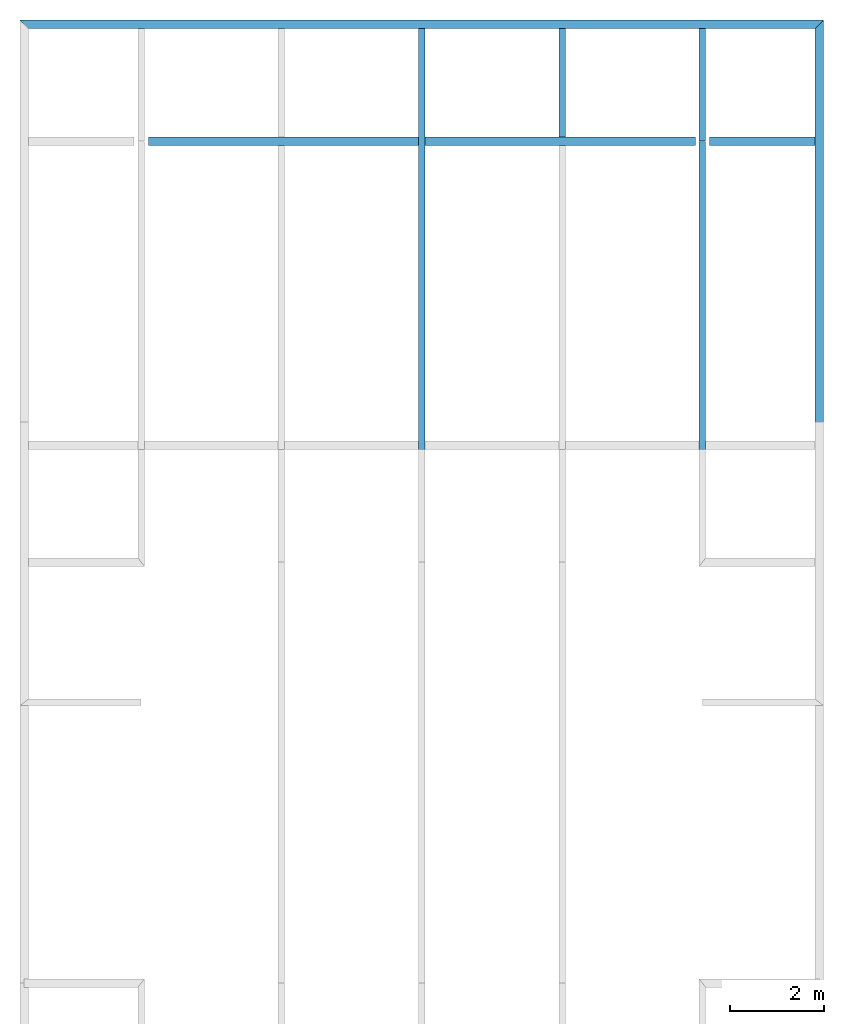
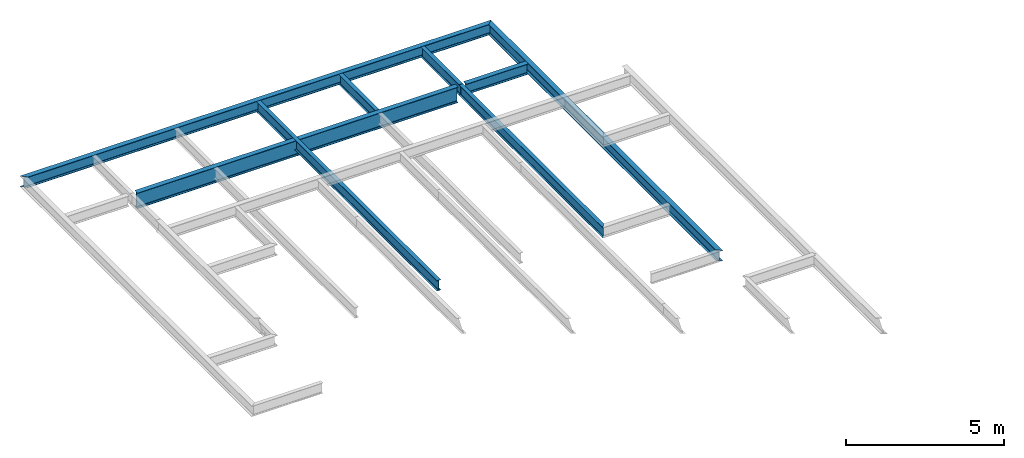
# One storey, part 7 of 7: 8 beams.
"""IFC2X3 building model written with IfcOpenShell, lengths in millimetres."""

from ifc_helpers import new_model, si_unit, origin, place, context, project, spatial, faceted_brep, material, element, save


model = new_model("IFC2X3")

# Units and contexts
context_of_model = context(None, 3, precision=1e-05, world=origin())
ifc_project = project(units=[si_unit("LENGTHUNIT", "METRE", prefix="MILLI")], contexts=[context_of_model])

# Building, storey
building = spatial("IfcBuilding", under=ifc_project, Name="Building", CompositionType="ELEMENT")
storey = spatial("IfcBuildingStorey", under=building, Name="ROF-FRM", CompositionType="ELEMENT")

# Beams
ifc_material_1 = material(Name="A992")
beam_1_placement = place(None, origin())
element("IfcBeam", 1, at=beam_1_placement, inside=storey, material=ifc_material_1, Name="B1125", context=context_of_model, shape_type="Brep", body=[
    faceted_brep([(14410.0, 36089.0, 27766.0), (14410.0, 35911.0, 27766.0), (12153.0, 35911.0, 27766.0), (12153.0, 36089.0, 27766.0), (14410.0, 35911.0, 27778.8), (12153.0, 35911.0, 27778.8), (14410.0, 35986.0, 27778.8), (12153.0, 35986.0, 27778.8), (14410.0, 35988.6, 27779.1), (12153.0, 35988.6, 27779.1), (14410.0, 35991.1, 27780.2), (12153.0, 35991.1, 27780.2), (14410.0, 35993.2, 27781.8), (12153.0, 35993.2, 27781.8), (14410.0, 35994.8, 27783.9), (12153.0, 35994.8, 27783.9), (14410.0, 35995.8, 27786.4), (12153.0, 35995.8, 27786.4), (14410.0, 35996.2, 27789.0), (12153.0, 35996.2, 27789.0), (14410.0, 35996.2, 28150.0), (12153.0, 35996.2, 28150.0), (14410.0, 35995.8, 28152.6), (12153.0, 35995.8, 28152.6), (14410.0, 35994.8, 28155.1), (12153.0, 35994.8, 28155.1), (14410.0, 35993.2, 28157.2), (12153.0, 35993.2, 28157.2), (14410.0, 35991.1, 28158.8), (12153.0, 35991.1, 28158.8), (14410.0, 35988.6, 28159.9), (12153.0, 35988.6, 28159.9), (14410.0, 35986.0, 28160.2), (12153.0, 35986.0, 28160.2), (14410.0, 35911.0, 28160.2), (12153.0, 35911.0, 28160.2), (14410.0, 35911.0, 28173.0), (12153.0, 35911.0, 28173.0), (14410.0, 36089.0, 28173.0), (12153.0, 36089.0, 28173.0), (14410.0, 36089.0, 28160.2), (12153.0, 36089.0, 28160.2), (14410.0, 36014.0, 28160.2), (12153.0, 36014.0, 28160.2), (14410.0, 36011.4, 28159.9), (12153.0, 36011.4, 28159.9), (14410.0, 36008.9, 28158.8), (12153.0, 36008.9, 28158.8), (14410.0, 36006.8, 28157.2), (12153.0, 36006.8, 28157.2), (14410.0, 36005.2, 28155.1), (12153.0, 36005.2, 28155.1), (14410.0, 36004.2, 28152.6), (12153.0, 36004.2, 28152.6), (14410.0, 36003.8, 28150.0), (12153.0, 36003.8, 28150.0), (14410.0, 36003.8, 27789.0), (12153.0, 36003.8, 27789.0), (14410.0, 36004.2, 27786.4), (12153.0, 36004.2, 27786.4), (14410.0, 36005.2, 27783.9), (12153.0, 36005.2, 27783.9), (14410.0, 36006.8, 27781.8), (12153.0, 36006.8, 27781.8), (14410.0, 36008.9, 27780.2), (12153.0, 36008.9, 27780.2), (14410.0, 36011.4, 27779.1), (12153.0, 36011.4, 27779.1), (14410.0, 36014.0, 27778.8), (12153.0, 36014.0, 27778.8), (14410.0, 36089.0, 27778.8), (12153.0, 36089.0, 27778.8)], [[[0, 1, 2, 3]], [[1, 4, 5, 2]], [[4, 6, 7, 5]], [[6, 8, 9, 7]], [[8, 10, 11, 9]], [[10, 12, 13, 11]], [[12, 14, 15, 13]], [[14, 16, 17, 15]], [[16, 18, 19, 17]], [[18, 20, 21, 19]], [[20, 22, 23, 21]], [[22, 24, 25, 23]], [[24, 26, 27, 25]], [[26, 28, 29, 27]], [[28, 30, 31, 29]], [[30, 32, 33, 31]], [[32, 34, 35, 33]], [[34, 36, 37, 35]], [[36, 38, 39, 37]], [[38, 40, 41, 39]], [[40, 42, 43, 41]], [[42, 44, 45, 43]], [[44, 46, 47, 45]], [[46, 48, 49, 47]], [[48, 50, 51, 49]], [[50, 52, 53, 51]], [[52, 54, 55, 53]], [[54, 56, 57, 55]], [[56, 58, 59, 57]], [[58, 60, 61, 59]], [[60, 62, 63, 61]], [[62, 64, 65, 63]], [[64, 66, 67, 65]], [[66, 68, 69, 67]], [[68, 70, 71, 69]], [[70, 0, 3, 71]], [[0, 70, 68, 66, 64, 62, 60, 58, 56, 54, 52, 50, 48, 46, 44, 42, 40, 38, 36, 34, 32, 30, 28, 26, 24, 22, 20, 18, 16, 14, 12, 10, 8, 6, 4, 1]], [[3, 2, 5, 7, 9, 11, 13, 15, 17, 19, 21, 23, 25, 27, 29, 31, 33, 35, 37, 39, 41, 43, 45, 47, 49, 51, 53, 55, 57, 59, 61, 63, 65, 67, 69, 71]]]),
])
ifc_material_2 = material(Name="A992")
beam_2_placement = place(None, origin())
element("IfcBeam", 2, at=beam_2_placement, inside=storey, material=ifc_material_2, Name="B1134", context=context_of_model, shape_type="Brep", body=[
    faceted_brep([(14590.0, 38590.0, 27760.0), (14410.0, 38410.0, 27760.0), (-2410.0, 38410.0, 27760.0), (-2590.0, 38590.0, 27760.0), (14410.0, 38410.0, 27776.0), (-2410.0, 38410.0, 27776.0), (14485.0, 38485.0, 27776.0), (-2484.95, 38485.0, 27776.0), (14486.5, 38486.5, 27776.1), (-2486.53, 38486.5, 27776.1), (14488.1, 38488.1, 27776.5), (-2488.09, 38488.1, 27776.5), (14489.6, 38489.6, 27777.1), (-2489.55, 38489.6, 27777.1), (14490.9, 38490.9, 27777.9), (-2490.91, 38490.9, 27777.9), (14492.2, 38492.2, 27779.0), (-2492.16, 38492.2, 27779.0), (14493.2, 38493.2, 27780.2), (-2493.17, 38493.2, 27780.2), (14494.0, 38494.0, 27781.5), (-2494.03, 38494.0, 27781.5), (14494.6, 38494.6, 27783.0), (-2494.63, 38494.6, 27783.0), (14495.0, 38495.0, 27784.6), (-2494.99, 38495.0, 27784.6), (14495.2, 38495.2, 27786.2), (-2495.15, 38495.2, 27786.2), (14495.2, 38495.2, 28146.8), (-2495.15, 38495.2, 28146.8), (14495.0, 38495.0, 28148.4), (-2494.99, 38495.0, 28148.4), (14494.6, 38494.6, 28150.0), (-2494.63, 38494.6, 28150.0), (14494.0, 38494.0, 28151.5), (-2494.03, 38494.0, 28151.5), (14493.2, 38493.2, 28152.8), (-2493.17, 38493.2, 28152.8), (14492.2, 38492.2, 28154.0), (-2492.16, 38492.2, 28154.0), (14490.9, 38490.9, 28155.1), (-2490.91, 38490.9, 28155.1), (14489.6, 38489.6, 28155.9), (-2489.55, 38489.6, 28155.9), (14488.1, 38488.1, 28156.5), (-2488.09, 38488.1, 28156.5), (14486.5, 38486.5, 28156.9), (-2486.53, 38486.5, 28156.9), (14485.0, 38485.0, 28157.0), (-2484.95, 38485.0, 28157.0), (14410.0, 38410.0, 28157.0), (-2410.0, 38410.0, 28157.0), (14410.0, 38410.0, 28173.0), (-2410.0, 38410.0, 28173.0), (14590.0, 38590.0, 28173.0), (-2590.0, 38590.0, 28173.0), (14590.0, 38590.0, 28157.0), (-2590.0, 38590.0, 28157.0), (14515.0, 38515.0, 28157.0), (-2515.05, 38515.0, 28157.0), (14513.5, 38513.5, 28156.9), (-2513.47, 38513.5, 28156.9), (14511.9, 38511.9, 28156.5), (-2511.91, 38511.9, 28156.5), (14510.4, 38510.4, 28155.9), (-2510.45, 38510.4, 28155.9), (14509.1, 38509.1, 28155.1), (-2509.09, 38509.1, 28155.1), (14507.8, 38507.8, 28154.0), (-2507.84, 38507.8, 28154.0), (14506.8, 38506.8, 28152.8), (-2506.83, 38506.8, 28152.8), (14506.0, 38506.0, 28151.5), (-2505.97, 38506.0, 28151.5), (14505.4, 38505.4, 28150.0), (-2505.37, 38505.4, 28150.0), (14505.0, 38505.0, 28148.4), (-2505.01, 38505.0, 28148.4), (14504.8, 38504.8, 28146.8), (-2504.85, 38504.8, 28146.8), (14504.8, 38504.8, 27786.2), (-2504.85, 38504.8, 27786.2), (14505.0, 38505.0, 27784.6), (-2505.01, 38505.0, 27784.6), (14505.4, 38505.4, 27783.0), (-2505.37, 38505.4, 27783.0), (14506.0, 38506.0, 27781.5), (-2505.97, 38506.0, 27781.5), (14506.8, 38506.8, 27780.2), (-2506.83, 38506.8, 27780.2), (14507.8, 38507.8, 27779.0), (-2507.84, 38507.8, 27779.0), (14509.1, 38509.1, 27777.9), (-2509.09, 38509.1, 27777.9), (14510.4, 38510.4, 27777.1), (-2510.45, 38510.4, 27777.1), (14511.9, 38511.9, 27776.5), (-2511.91, 38511.9, 27776.5), (14513.5, 38513.5, 27776.1), (-2513.47, 38513.5, 27776.1), (14515.0, 38515.0, 27776.0), (-2515.05, 38515.0, 27776.0), (14590.0, 38590.0, 27776.0), (-2590.0, 38590.0, 27776.0)], [[[0, 1, 2, 3]], [[1, 4, 5, 2]], [[4, 6, 7, 5]], [[6, 8, 9, 7]], [[8, 10, 11, 9]], [[10, 12, 13, 11]], [[12, 14, 15, 13]], [[14, 16, 17, 15]], [[16, 18, 19, 17]], [[18, 20, 21, 19]], [[20, 22, 23, 21]], [[22, 24, 25, 23]], [[24, 26, 27, 25]], [[26, 28, 29, 27]], [[28, 30, 31, 29]], [[30, 32, 33, 31]], [[32, 34, 35, 33]], [[34, 36, 37, 35]], [[36, 38, 39, 37]], [[38, 40, 41, 39]], [[40, 42, 43, 41]], [[42, 44, 45, 43]], [[44, 46, 47, 45]], [[46, 48, 49, 47]], [[48, 50, 51, 49]], [[50, 52, 53, 51]], [[52, 54, 55, 53]], [[54, 56, 57, 55]], [[56, 58, 59, 57]], [[58, 60, 61, 59]], [[60, 62, 63, 61]], [[62, 64, 65, 63]], [[64, 66, 67, 65]], [[66, 68, 69, 67]], [[68, 70, 71, 69]], [[70, 72, 73, 71]], [[72, 74, 75, 73]], [[74, 76, 77, 75]], [[76, 78, 79, 77]], [[78, 80, 81, 79]], [[80, 82, 83, 81]], [[82, 84, 85, 83]], [[84, 86, 87, 85]], [[86, 88, 89, 87]], [[88, 90, 91, 89]], [[90, 92, 93, 91]], [[92, 94, 95, 93]], [[94, 96, 97, 95]], [[96, 98, 99, 97]], [[98, 100, 101, 99]], [[100, 102, 103, 101]], [[102, 0, 3, 103]], [[0, 102, 100, 98, 96, 94, 92, 90, 88, 86, 84, 82, 80, 78, 76, 74, 72, 70, 68, 66, 64, 62, 60, 58, 56, 54, 52, 50, 48, 46, 44, 42, 40, 38, 36, 34, 32, 30, 28, 26, 24, 22, 20, 18, 16, 14, 12, 10, 8, 6, 4, 1]], [[3, 2, 5, 7, 9, 11, 13, 15, 17, 19, 21, 23, 25, 27, 29, 31, 33, 35, 37, 39, 41, 43, 45, 47, 49, 51, 53, 55, 57, 59, 61, 63, 65, 67, 69, 71, 73, 75, 77, 79, 81, 83, 85, 87, 89, 91, 93, 95, 97, 99, 101, 103]]]),
])
ifc_material_3 = material(Name="A992")
beam_3_placement = place(None, origin())
element("IfcBeam", 3, at=beam_3_placement, inside=storey, material=ifc_material_3, Name="B1143", context=context_of_model, shape_type="Brep", body=[
    faceted_brep([(14410.0, 38410.0, 27760.0), (14590.0, 38590.0, 27760.0), (14590.0, 23930.0, 27760.0), (14410.0, 24070.0, 27760.0), (14590.0, 38590.0, 27776.0), (14590.0, 23930.0, 27776.0), (14515.0, 38515.0, 27776.0), (14515.0, 23988.3, 27776.0), (14513.5, 38513.5, 27776.1), (14513.5, 23989.5, 27776.1), (14511.9, 38511.9, 27776.5), (14511.9, 23990.7, 27776.5), (14510.4, 38510.4, 27777.1), (14510.4, 23991.9, 27777.1), (14509.1, 38509.1, 27777.9), (14509.1, 23992.9, 27777.9), (14507.8, 38507.8, 27779.0), (14507.8, 23993.9, 27779.0), (14506.8, 38506.8, 27780.2), (14506.8, 23994.7, 27780.2), (14506.0, 38506.0, 27781.5), (14506.0, 23995.4, 27781.5), (14505.4, 38505.4, 27783.0), (14505.4, 23995.8, 27783.0), (14505.0, 38505.0, 27784.6), (14505.0, 23996.1, 27784.6), (14504.8, 38504.8, 27786.2), (14504.8, 23996.2, 27786.2), (14504.8, 38504.8, 28146.8), (14504.8, 23996.2, 28146.8), (14505.0, 38505.0, 28148.4), (14505.0, 23996.1, 28148.4), (14505.4, 38505.4, 28150.0), (14505.4, 23995.8, 28150.0), (14506.0, 38506.0, 28151.5), (14506.0, 23995.4, 28151.5), (14506.8, 38506.8, 28152.8), (14506.8, 23994.7, 28152.8), (14507.8, 38507.8, 28154.0), (14507.8, 23993.9, 28154.0), (14509.1, 38509.1, 28155.1), (14509.1, 23992.9, 28155.1), (14510.4, 38510.4, 28155.9), (14510.4, 23991.9, 28155.9), (14511.9, 38511.9, 28156.5), (14511.9, 23990.7, 28156.5), (14513.5, 38513.5, 28156.9), (14513.5, 23989.5, 28156.9), (14515.0, 38515.0, 28157.0), (14515.0, 23988.3, 28157.0), (14590.0, 38590.0, 28157.0), (14590.0, 23930.0, 28157.0), (14590.0, 38590.0, 28173.0), (14590.0, 23930.0, 28173.0), (14410.0, 38410.0, 28173.0), (14410.0, 24070.0, 28173.0), (14410.0, 38410.0, 28157.0), (14410.0, 24070.0, 28157.0), (14485.0, 38485.0, 28157.0), (14485.0, 24011.7, 28157.0), (14486.5, 38486.5, 28156.9), (14486.5, 24010.5, 28156.9), (14488.1, 38488.1, 28156.5), (14488.1, 24009.3, 28156.5), (14489.6, 38489.6, 28155.9), (14489.6, 24008.1, 28155.9), (14490.9, 38490.9, 28155.1), (14490.9, 24007.1, 28155.1), (14492.2, 38492.2, 28154.0), (14492.2, 24006.1, 28154.0), (14493.2, 38493.2, 28152.8), (14493.2, 24005.3, 28152.8), (14494.0, 38494.0, 28151.5), (14494.0, 24004.6, 28151.5), (14494.6, 38494.6, 28150.0), (14494.6, 24004.2, 28150.0), (14495.0, 38495.0, 28148.4), (14495.0, 24003.9, 28148.4), (14495.2, 38495.2, 28146.8), (14495.2, 24003.8, 28146.8), (14495.2, 38495.2, 27786.2), (14495.2, 24003.8, 27786.2), (14495.0, 38495.0, 27784.6), (14495.0, 24003.9, 27784.6), (14494.6, 38494.6, 27783.0), (14494.6, 24004.2, 27783.0), (14494.0, 38494.0, 27781.5), (14494.0, 24004.6, 27781.5), (14493.2, 38493.2, 27780.2), (14493.2, 24005.3, 27780.2), (14492.2, 38492.2, 27779.0), (14492.2, 24006.1, 27779.0), (14490.9, 38490.9, 27777.9), (14490.9, 24007.1, 27777.9), (14489.6, 38489.6, 27777.1), (14489.6, 24008.1, 27777.1), (14488.1, 38488.1, 27776.5), (14488.1, 24009.3, 27776.5), (14486.5, 38486.5, 27776.1), (14486.5, 24010.5, 27776.1), (14485.0, 38485.0, 27776.0), (14485.0, 24011.7, 27776.0), (14410.0, 38410.0, 27776.0), (14410.0, 24070.0, 27776.0)], [[[0, 1, 2, 3]], [[1, 4, 5, 2]], [[4, 6, 7, 5]], [[6, 8, 9, 7]], [[8, 10, 11, 9]], [[10, 12, 13, 11]], [[12, 14, 15, 13]], [[14, 16, 17, 15]], [[16, 18, 19, 17]], [[18, 20, 21, 19]], [[20, 22, 23, 21]], [[22, 24, 25, 23]], [[24, 26, 27, 25]], [[26, 28, 29, 27]], [[28, 30, 31, 29]], [[30, 32, 33, 31]], [[32, 34, 35, 33]], [[34, 36, 37, 35]], [[36, 38, 39, 37]], [[38, 40, 41, 39]], [[40, 42, 43, 41]], [[42, 44, 45, 43]], [[44, 46, 47, 45]], [[46, 48, 49, 47]], [[48, 50, 51, 49]], [[50, 52, 53, 51]], [[52, 54, 55, 53]], [[54, 56, 57, 55]], [[56, 58, 59, 57]], [[58, 60, 61, 59]], [[60, 62, 63, 61]], [[62, 64, 65, 63]], [[64, 66, 67, 65]], [[66, 68, 69, 67]], [[68, 70, 71, 69]], [[70, 72, 73, 71]], [[72, 74, 75, 73]], [[74, 76, 77, 75]], [[76, 78, 79, 77]], [[78, 80, 81, 79]], [[80, 82, 83, 81]], [[82, 84, 85, 83]], [[84, 86, 87, 85]], [[86, 88, 89, 87]], [[88, 90, 91, 89]], [[90, 92, 93, 91]], [[92, 94, 95, 93]], [[94, 96, 97, 95]], [[96, 98, 99, 97]], [[98, 100, 101, 99]], [[100, 102, 103, 101]], [[102, 0, 3, 103]], [[0, 102, 100, 98, 96, 94, 92, 90, 88, 86, 84, 82, 80, 78, 76, 74, 72, 70, 68, 66, 64, 62, 60, 58, 56, 54, 52, 50, 48, 46, 44, 42, 40, 38, 36, 34, 32, 30, 28, 26, 24, 22, 20, 18, 16, 14, 12, 10, 8, 6, 4, 1]], [[3, 2, 5, 7, 9, 11, 13, 15, 17, 19, 21, 23, 25, 27, 29, 31, 33, 35, 37, 39, 41, 43, 45, 47, 49, 51, 53, 55, 57, 59, 61, 63, 65, 67, 69, 71, 73, 75, 77, 79, 81, 83, 85, 87, 89, 91, 93, 95, 97, 99, 101, 103]]]),
])
ifc_material_4 = material(Name="A992")
beam_4_placement = place(None, origin())
element("IfcBeam", 4, at=beam_4_placement, inside=storey, material=ifc_material_4, Name="B1147", context=context_of_model, shape_type="Brep", body=[
    faceted_brep([(5930.0, 38410.0, 27770.0), (6070.0, 38410.0, 27770.0), (6070.0, 27000.0, 27770.0), (5930.0, 27000.0, 27770.0), (6070.0, 38410.0, 27781.2), (6070.0, 27000.0, 27781.2), (6013.7, 38410.0, 27781.2), (6013.7, 27000.0, 27781.2), (6011.06, 38410.0, 27781.5), (6011.06, 27000.0, 27781.5), (6008.6, 38410.0, 27782.6), (6008.6, 27000.0, 27782.6), (6006.49, 38410.0, 27784.2), (6006.49, 27000.0, 27784.2), (6004.87, 38410.0, 27786.3), (6004.87, 27000.0, 27786.3), (6003.85, 38410.0, 27788.8), (6003.85, 27000.0, 27788.8), (6003.5, 38410.0, 27791.4), (6003.5, 27000.0, 27791.4), (6003.5, 38410.0, 28151.6), (6003.5, 27000.0, 28151.6), (6003.85, 38410.0, 28154.2), (6003.85, 27000.0, 28154.2), (6004.87, 38410.0, 28156.7), (6004.87, 27000.0, 28156.7), (6006.49, 38410.0, 28158.8), (6006.49, 27000.0, 28158.8), (6008.6, 38410.0, 28160.4), (6008.6, 27000.0, 28160.4), (6011.06, 38410.0, 28161.5), (6011.06, 27000.0, 28161.5), (6013.7, 38410.0, 28161.8), (6013.7, 27000.0, 28161.8), (6070.0, 38410.0, 28161.8), (6070.0, 27000.0, 28161.8), (6070.0, 38410.0, 28173.0), (6070.0, 27000.0, 28173.0), (5930.0, 38410.0, 28173.0), (5930.0, 27000.0, 28173.0), (5930.0, 38410.0, 28161.8), (5930.0, 27000.0, 28161.8), (5986.3, 38410.0, 28161.8), (5986.3, 27000.0, 28161.8), (5988.94, 38410.0, 28161.5), (5988.94, 27000.0, 28161.5), (5991.4, 38410.0, 28160.4), (5991.4, 27000.0, 28160.4), (5993.51, 38410.0, 28158.8), (5993.51, 27000.0, 28158.8), (5995.13, 38410.0, 28156.7), (5995.13, 27000.0, 28156.7), (5996.15, 38410.0, 28154.2), (5996.15, 27000.0, 28154.2), (5996.5, 38410.0, 28151.6), (5996.5, 27000.0, 28151.6), (5996.5, 38410.0, 27791.4), (5996.5, 27000.0, 27791.4), (5996.15, 38410.0, 27788.8), (5996.15, 27000.0, 27788.8), (5995.13, 38410.0, 27786.3), (5995.13, 27000.0, 27786.3), (5993.51, 38410.0, 27784.2), (5993.51, 27000.0, 27784.2), (5991.4, 38410.0, 27782.6), (5991.4, 27000.0, 27782.6), (5988.94, 38410.0, 27781.5), (5988.94, 27000.0, 27781.5), (5986.3, 38410.0, 27781.2), (5986.3, 27000.0, 27781.2), (5930.0, 38410.0, 27781.2), (5930.0, 27000.0, 27781.2)], [[[0, 1, 2, 3]], [[1, 4, 5, 2]], [[4, 6, 7, 5]], [[6, 8, 9, 7]], [[8, 10, 11, 9]], [[10, 12, 13, 11]], [[12, 14, 15, 13]], [[14, 16, 17, 15]], [[16, 18, 19, 17]], [[18, 20, 21, 19]], [[20, 22, 23, 21]], [[22, 24, 25, 23]], [[24, 26, 27, 25]], [[26, 28, 29, 27]], [[28, 30, 31, 29]], [[30, 32, 33, 31]], [[32, 34, 35, 33]], [[34, 36, 37, 35]], [[36, 38, 39, 37]], [[38, 40, 41, 39]], [[40, 42, 43, 41]], [[42, 44, 45, 43]], [[44, 46, 47, 45]], [[46, 48, 49, 47]], [[48, 50, 51, 49]], [[50, 52, 53, 51]], [[52, 54, 55, 53]], [[54, 56, 57, 55]], [[56, 58, 59, 57]], [[58, 60, 61, 59]], [[60, 62, 63, 61]], [[62, 64, 65, 63]], [[64, 66, 67, 65]], [[66, 68, 69, 67]], [[68, 70, 71, 69]], [[70, 0, 3, 71]], [[0, 70, 68, 66, 64, 62, 60, 58, 56, 54, 52, 50, 48, 46, 44, 42, 40, 38, 36, 34, 32, 30, 28, 26, 24, 22, 20, 18, 16, 14, 12, 10, 8, 6, 4, 1]], [[3, 2, 5, 7, 9, 11, 13, 15, 17, 19, 21, 23, 25, 27, 29, 31, 33, 35, 37, 39, 41, 43, 45, 47, 49, 51, 53, 55, 57, 59, 61, 63, 65, 67, 69, 71]]]),
])
ifc_material_5 = material(Name="A992")
beam_5_placement = place(None, origin())
element("IfcBeam", 5, at=beam_5_placement, inside=storey, material=ifc_material_5, Name="B1150", context=context_of_model, shape_type="Brep", body=[
    faceted_brep([(9070.0, 36089.5, 27774.0), (8930.0, 36089.5, 27774.0), (8930.0, 38410.0, 27774.0), (9070.0, 38410.0, 27774.0), (8930.0, 36089.5, 27782.8), (8930.0, 38410.0, 27782.8), (8986.6, 36089.5, 27782.8), (8986.6, 38410.0, 27782.8), (8989.24, 36089.5, 27783.1), (8989.24, 38410.0, 27783.1), (8991.7, 36089.5, 27784.2), (8991.7, 38410.0, 27784.2), (8993.81, 36089.5, 27785.8), (8993.81, 38410.0, 27785.8), (8995.43, 36089.5, 27787.9), (8995.43, 38410.0, 27787.9), (8996.45, 36089.5, 27790.4), (8996.45, 38410.0, 27790.4), (8996.8, 36089.5, 27793.0), (8996.8, 38410.0, 27793.0), (8996.8, 36089.5, 28154.0), (8996.8, 38410.0, 28154.0), (8996.45, 36089.5, 28156.6), (8996.45, 38410.0, 28156.6), (8995.43, 36089.5, 28159.1), (8995.43, 38410.0, 28159.1), (8993.81, 36089.5, 28161.2), (8993.81, 38410.0, 28161.2), (8991.7, 36089.5, 28162.8), (8991.7, 38410.0, 28162.8), (8989.24, 36089.5, 28163.9), (8989.24, 38410.0, 28163.9), (8986.6, 36089.5, 28164.2), (8986.6, 38410.0, 28164.2), (8930.0, 36089.5, 28164.2), (8930.0, 38410.0, 28164.2), (8930.0, 36089.5, 28173.0), (8930.0, 38410.0, 28173.0), (9070.0, 36089.5, 28173.0), (9070.0, 38410.0, 28173.0), (9070.0, 36089.5, 28164.2), (9070.0, 38410.0, 28164.2), (9013.4, 36089.5, 28164.2), (9013.4, 38410.0, 28164.2), (9010.76, 36089.5, 28163.9), (9010.76, 38410.0, 28163.9), (9008.3, 36089.5, 28162.8), (9008.3, 38410.0, 28162.8), (9006.19, 36089.5, 28161.2), (9006.19, 38410.0, 28161.2), (9004.57, 36089.5, 28159.1), (9004.57, 38410.0, 28159.1), (9003.55, 36089.5, 28156.6), (9003.55, 38410.0, 28156.6), (9003.2, 36089.5, 28154.0), (9003.2, 38410.0, 28154.0), (9003.2, 36089.5, 27793.0), (9003.2, 38410.0, 27793.0), (9003.55, 36089.5, 27790.4), (9003.55, 38410.0, 27790.4), (9004.57, 36089.5, 27787.9), (9004.57, 38410.0, 27787.9), (9006.19, 36089.5, 27785.8), (9006.19, 38410.0, 27785.8), (9008.3, 36089.5, 27784.2), (9008.3, 38410.0, 27784.2), (9010.76, 36089.5, 27783.1), (9010.76, 38410.0, 27783.1), (9013.4, 36089.5, 27782.8), (9013.4, 38410.0, 27782.8), (9070.0, 36089.5, 27782.8), (9070.0, 38410.0, 27782.8)], [[[0, 1, 2, 3]], [[1, 4, 5, 2]], [[4, 6, 7, 5]], [[6, 8, 9, 7]], [[8, 10, 11, 9]], [[10, 12, 13, 11]], [[12, 14, 15, 13]], [[14, 16, 17, 15]], [[16, 18, 19, 17]], [[18, 20, 21, 19]], [[20, 22, 23, 21]], [[22, 24, 25, 23]], [[24, 26, 27, 25]], [[26, 28, 29, 27]], [[28, 30, 31, 29]], [[30, 32, 33, 31]], [[32, 34, 35, 33]], [[34, 36, 37, 35]], [[36, 38, 39, 37]], [[38, 40, 41, 39]], [[40, 42, 43, 41]], [[42, 44, 45, 43]], [[44, 46, 47, 45]], [[46, 48, 49, 47]], [[48, 50, 51, 49]], [[50, 52, 53, 51]], [[52, 54, 55, 53]], [[54, 56, 57, 55]], [[56, 58, 59, 57]], [[58, 60, 61, 59]], [[60, 62, 63, 61]], [[62, 64, 65, 63]], [[64, 66, 67, 65]], [[66, 68, 69, 67]], [[68, 70, 71, 69]], [[70, 0, 3, 71]], [[0, 70, 68, 66, 64, 62, 60, 58, 56, 54, 52, 50, 48, 46, 44, 42, 40, 38, 36, 34, 32, 30, 28, 26, 24, 22, 20, 18, 16, 14, 12, 10, 8, 6, 4, 1]], [[3, 2, 5, 7, 9, 11, 13, 15, 17, 19, 21, 23, 25, 27, 29, 31, 33, 35, 37, 39, 41, 43, 45, 47, 49, 51, 53, 55, 57, 59, 61, 63, 65, 67, 69, 71]]]),
])
ifc_material_6 = material(Name="A992")
beam_6_placement = place(None, origin())
element("IfcBeam", 6, at=beam_6_placement, inside=storey, material=ifc_material_6, Name="B1151", context=context_of_model, shape_type="Brep", body=[
    faceted_brep([(11930.0, 35995.6, 27770.0), (12070.0, 35995.6, 27770.0), (12070.0, 27089.0, 27770.0), (11930.0, 26911.0, 27770.0), (12070.0, 35995.6, 27781.2), (12070.0, 27089.0, 27781.2), (12013.7, 35995.6, 27781.2), (12013.7, 27017.4, 27781.2), (12012.2, 35995.6, 27781.3), (12012.3, 27015.6, 27781.3), (12010.8, 35995.6, 27781.6), (12010.8, 27013.8, 27781.6), (12009.5, 35995.6, 27782.1), (12009.5, 27012.1, 27782.1), (12008.2, 35995.6, 27782.8), (12008.2, 27010.5, 27782.8), (12007.0, 35995.6, 27783.7), (12007.0, 27009.0, 27783.6), (12006.0, 35995.6, 27784.7), (12006.0, 27007.7, 27784.7), (12005.1, 35995.6, 27785.9), (12005.2, 27006.6, 27785.8), (12004.4, 35995.6, 27787.2), (12004.4, 27005.6, 27787.1), (12003.9, 35995.6, 27788.5), (12004.0, 27005.0, 27788.5), (12003.6, 35995.6, 27789.9), (12003.7, 27004.6, 27789.9), (12003.5, 35995.6, 27791.4), (12003.5, 27004.4, 27791.4), (12003.5, 35995.6, 28151.6), (12003.5, 27004.4, 28151.6), (12003.6, 35995.6, 28153.1), (12003.7, 27004.6, 28153.1), (12003.9, 35995.6, 28154.5), (12004.0, 27005.0, 28154.5), (12004.4, 35995.6, 28155.8), (12004.4, 27005.6, 28155.9), (12005.1, 35995.6, 28157.1), (12005.2, 27006.6, 28157.2), (12006.0, 35995.6, 28158.3), (12006.0, 27007.7, 28158.3), (12007.0, 35995.6, 28159.3), (12007.0, 27009.0, 28159.4), (12008.2, 35995.6, 28160.2), (12008.2, 27010.5, 28160.2), (12009.5, 35995.6, 28160.9), (12009.5, 27012.1, 28160.9), (12010.8, 35995.6, 28161.4), (12010.8, 27013.8, 28161.4), (12012.2, 35995.6, 28161.7), (12012.3, 27015.6, 28161.7), (12013.7, 35995.6, 28161.8), (12013.7, 27017.4, 28161.8), (12070.0, 35995.6, 28161.8), (12070.0, 27089.0, 28161.8), (12070.0, 35995.6, 28173.0), (12070.0, 27089.0, 28173.0), (11930.0, 35995.6, 28173.0), (11930.0, 26911.0, 28173.0), (11930.0, 35995.6, 28161.8), (11930.0, 26911.0, 28161.8), (11986.3, 35995.6, 28161.8), (11986.3, 26982.6, 28161.8), (11987.8, 35995.6, 28161.7), (11987.7, 26984.4, 28161.7), (11989.2, 35995.6, 28161.4), (11989.2, 26986.2, 28161.4), (11990.5, 35995.6, 28160.9), (11990.5, 26987.9, 28160.9), (11991.8, 35995.6, 28160.2), (11991.8, 26989.5, 28160.2), (11993.0, 35995.6, 28159.3), (11993.0, 26991.0, 28159.4), (11994.0, 35995.6, 28158.3), (11994.0, 26992.3, 28158.3), (11994.9, 35995.6, 28157.1), (11994.8, 26993.4, 28157.2), (11995.6, 35995.6, 28155.8), (11995.6, 26994.4, 28155.9), (11996.1, 35995.6, 28154.5), (11996.0, 26995.0, 28154.5), (11996.4, 35995.6, 28153.1), (11996.3, 26995.4, 28153.1), (11996.5, 35995.6, 28151.6), (11996.5, 26995.5, 28151.6), (11996.5, 35995.6, 27791.4), (11996.5, 26995.5, 27791.4), (11996.4, 35995.6, 27789.9), (11996.3, 26995.4, 27789.9), (11996.1, 35995.6, 27788.5), (11996.0, 26995.0, 27788.5), (11995.6, 35995.6, 27787.2), (11995.6, 26994.4, 27787.1), (11994.9, 35995.6, 27785.9), (11994.8, 26993.4, 27785.8), (11994.0, 35995.6, 27784.7), (11994.0, 26992.3, 27784.7), (11993.0, 35995.6, 27783.7), (11993.0, 26991.0, 27783.6), (11991.8, 35995.6, 27782.8), (11991.8, 26989.5, 27782.8), (11990.5, 35995.6, 27782.1), (11990.5, 26987.9, 27782.1), (11989.2, 35995.6, 27781.6), (11989.2, 26986.2, 27781.6), (11987.8, 35995.6, 27781.3), (11987.7, 26984.4, 27781.3), (11986.3, 35995.6, 27781.2), (11986.3, 26982.6, 27781.2), (11930.0, 35995.6, 27781.2), (11930.0, 26911.0, 27781.2)], [[[0, 1, 2, 3]], [[1, 4, 5, 2]], [[4, 6, 7, 5]], [[6, 8, 9, 7]], [[8, 10, 11, 9]], [[10, 12, 13, 11]], [[12, 14, 15, 13]], [[14, 16, 17, 15]], [[16, 18, 19, 17]], [[18, 20, 21, 19]], [[20, 22, 23, 21]], [[22, 24, 25, 23]], [[24, 26, 27, 25]], [[26, 28, 29, 27]], [[28, 30, 31, 29]], [[30, 32, 33, 31]], [[32, 34, 35, 33]], [[34, 36, 37, 35]], [[36, 38, 39, 37]], [[38, 40, 41, 39]], [[40, 42, 43, 41]], [[42, 44, 45, 43]], [[44, 46, 47, 45]], [[46, 48, 49, 47]], [[48, 50, 51, 49]], [[50, 52, 53, 51]], [[52, 54, 55, 53]], [[54, 56, 57, 55]], [[56, 58, 59, 57]], [[58, 60, 61, 59]], [[60, 62, 63, 61]], [[62, 64, 65, 63]], [[64, 66, 67, 65]], [[66, 68, 69, 67]], [[68, 70, 71, 69]], [[70, 72, 73, 71]], [[72, 74, 75, 73]], [[74, 76, 77, 75]], [[76, 78, 79, 77]], [[78, 80, 81, 79]], [[80, 82, 83, 81]], [[82, 84, 85, 83]], [[84, 86, 87, 85]], [[86, 88, 89, 87]], [[88, 90, 91, 89]], [[90, 92, 93, 91]], [[92, 94, 95, 93]], [[94, 96, 97, 95]], [[96, 98, 99, 97]], [[98, 100, 101, 99]], [[100, 102, 103, 101]], [[102, 104, 105, 103]], [[104, 106, 107, 105]], [[106, 108, 109, 107]], [[108, 110, 111, 109]], [[110, 0, 3, 111]], [[0, 110, 108, 106, 104, 102, 100, 98, 96, 94, 92, 90, 88, 86, 84, 82, 80, 78, 76, 74, 72, 70, 68, 66, 64, 62, 60, 58, 56, 54, 52, 50, 48, 46, 44, 42, 40, 38, 36, 34, 32, 30, 28, 26, 24, 22, 20, 18, 16, 14, 12, 10, 8, 6, 4, 1]], [[3, 2, 5, 7, 9, 11, 13, 15, 17, 19, 21, 23, 25, 27, 29, 31, 33, 35, 37, 39, 41, 43, 45, 47, 49, 51, 53, 55, 57, 59, 61, 63, 65, 67, 69, 71, 73, 75, 77, 79, 81, 83, 85, 87, 89, 91, 93, 95, 97, 99, 101, 103, 105, 107, 109, 111]]]),
])
ifc_material_7 = material(Name="A992")
beam_7_placement = place(None, origin())
element("IfcBeam", 7, at=beam_7_placement, inside=storey, material=ifc_material_7, Name="B1152", context=context_of_model, shape_type="Brep", body=[
    faceted_brep([(12070.0, 36004.4, 27774.0), (11930.0, 36004.4, 27774.0), (11930.0, 38410.0, 27774.0), (12070.0, 38410.0, 27774.0), (11930.0, 36004.4, 27782.8), (11930.0, 38410.0, 27782.8), (11986.6, 36004.4, 27782.8), (11986.6, 38410.0, 27782.8), (11989.2, 36004.4, 27783.1), (11989.2, 38410.0, 27783.1), (11991.7, 36004.4, 27784.2), (11991.7, 38410.0, 27784.2), (11993.8, 36004.4, 27785.8), (11993.8, 38410.0, 27785.8), (11995.4, 36004.4, 27787.9), (11995.4, 38410.0, 27787.9), (11996.5, 36004.4, 27790.4), (11996.5, 38410.0, 27790.4), (11996.8, 36004.4, 27793.0), (11996.8, 38410.0, 27793.0), (11996.8, 36004.4, 28154.0), (11996.8, 38410.0, 28154.0), (11996.5, 36004.4, 28156.6), (11996.5, 38410.0, 28156.6), (11995.4, 36004.4, 28159.1), (11995.4, 38410.0, 28159.1), (11993.8, 36004.4, 28161.2), (11993.8, 38410.0, 28161.2), (11991.7, 36004.4, 28162.8), (11991.7, 38410.0, 28162.8), (11989.2, 36004.4, 28163.9), (11989.2, 38410.0, 28163.9), (11986.6, 36004.4, 28164.2), (11986.6, 38410.0, 28164.2), (11930.0, 36004.4, 28164.2), (11930.0, 38410.0, 28164.2), (11930.0, 36004.4, 28173.0), (11930.0, 38410.0, 28173.0), (12070.0, 36004.4, 28173.0), (12070.0, 38410.0, 28173.0), (12070.0, 36004.4, 28164.2), (12070.0, 38410.0, 28164.2), (12013.4, 36004.4, 28164.2), (12013.4, 38410.0, 28164.2), (12010.8, 36004.4, 28163.9), (12010.8, 38410.0, 28163.9), (12008.3, 36004.4, 28162.8), (12008.3, 38410.0, 28162.8), (12006.2, 36004.4, 28161.2), (12006.2, 38410.0, 28161.2), (12004.6, 36004.4, 28159.1), (12004.6, 38410.0, 28159.1), (12003.5, 36004.4, 28156.6), (12003.5, 38410.0, 28156.6), (12003.2, 36004.4, 28154.0), (12003.2, 38410.0, 28154.0), (12003.2, 36004.4, 27793.0), (12003.2, 38410.0, 27793.0), (12003.5, 36004.4, 27790.4), (12003.5, 38410.0, 27790.4), (12004.6, 36004.4, 27787.9), (12004.6, 38410.0, 27787.9), (12006.2, 36004.4, 27785.8), (12006.2, 38410.0, 27785.8), (12008.3, 36004.4, 27784.2), (12008.3, 38410.0, 27784.2), (12010.8, 36004.4, 27783.1), (12010.8, 38410.0, 27783.1), (12013.4, 36004.4, 27782.8), (12013.4, 38410.0, 27782.8), (12070.0, 36004.4, 27782.8), (12070.0, 38410.0, 27782.8)], [[[0, 1, 2, 3]], [[1, 4, 5, 2]], [[4, 6, 7, 5]], [[6, 8, 9, 7]], [[8, 10, 11, 9]], [[10, 12, 13, 11]], [[12, 14, 15, 13]], [[14, 16, 17, 15]], [[16, 18, 19, 17]], [[18, 20, 21, 19]], [[20, 22, 23, 21]], [[22, 24, 25, 23]], [[24, 26, 27, 25]], [[26, 28, 29, 27]], [[28, 30, 31, 29]], [[30, 32, 33, 31]], [[32, 34, 35, 33]], [[34, 36, 37, 35]], [[36, 38, 39, 37]], [[38, 40, 41, 39]], [[40, 42, 43, 41]], [[42, 44, 45, 43]], [[44, 46, 47, 45]], [[46, 48, 49, 47]], [[48, 50, 51, 49]], [[50, 52, 53, 51]], [[52, 54, 55, 53]], [[54, 56, 57, 55]], [[56, 58, 59, 57]], [[58, 60, 61, 59]], [[60, 62, 63, 61]], [[62, 64, 65, 63]], [[64, 66, 67, 65]], [[66, 68, 69, 67]], [[68, 70, 71, 69]], [[70, 0, 3, 71]], [[0, 70, 68, 66, 64, 62, 60, 58, 56, 54, 52, 50, 48, 46, 44, 42, 40, 38, 36, 34, 32, 30, 28, 26, 24, 22, 20, 18, 16, 14, 12, 10, 8, 6, 4, 1]], [[3, 2, 5, 7, 9, 11, 13, 15, 17, 19, 21, 23, 25, 27, 29, 31, 33, 35, 37, 39, 41, 43, 45, 47, 49, 51, 53, 55, 57, 59, 61, 63, 65, 67, 69, 71]]]),
])
ifc_material_8 = material(Name="A992")
beam_8_placement = place(None, origin())
element("IfcBeam", 8, at=beam_8_placement, inside=storey, material=ifc_material_8, Name="B1177", context=context_of_model, shape_type="Brep", body=[
    faceted_brep([(11847.0, 36089.5, 27570.0), (11847.0, 35910.5, 27570.0), (153.0, 35910.5, 27570.0), (153.0, 36089.5, 27570.0), (11847.0, 35910.5, 27585.0), (153.0, 35910.5, 27585.0), (11847.0, 35979.4, 27585.0), (153.0, 35979.4, 27585.0), (11847.0, 35983.3, 27585.5), (153.0, 35983.3, 27585.5), (11847.0, 35987.0, 27587.0), (153.0, 35987.0, 27587.0), (11847.0, 35990.1, 27589.5), (153.0, 35990.1, 27589.5), (11847.0, 35992.5, 27592.6), (153.0, 35992.5, 27592.6), (11847.0, 35994.0, 27596.3), (153.0, 35994.0, 27596.3), (11847.0, 35994.6, 27600.2), (153.0, 35994.6, 27600.2), (11847.0, 35994.6, 28142.8), (153.0, 35994.6, 28142.8), (11847.0, 35994.0, 28146.7), (153.0, 35994.0, 28146.7), (11847.0, 35992.5, 28150.4), (153.0, 35992.5, 28150.4), (11847.0, 35990.1, 28153.5), (153.0, 35990.1, 28153.5), (11847.0, 35987.0, 28156.0), (153.0, 35987.0, 28156.0), (11847.0, 35983.3, 28157.5), (153.0, 35983.3, 28157.5), (11847.0, 35979.4, 28158.0), (153.0, 35979.4, 28158.0), (11847.0, 35910.5, 28158.0), (153.0, 35910.5, 28158.0), (11847.0, 35910.5, 28173.0), (153.0, 35910.5, 28173.0), (11847.0, 36089.5, 28173.0), (153.0, 36089.5, 28173.0), (11847.0, 36089.5, 28158.0), (153.0, 36089.5, 28158.0), (11847.0, 36020.6, 28158.0), (153.0, 36020.6, 28158.0), (11847.0, 36016.7, 28157.5), (153.0, 36016.7, 28157.5), (11847.0, 36013.0, 28156.0), (153.0, 36013.0, 28156.0), (11847.0, 36009.9, 28153.5), (153.0, 36009.9, 28153.5), (11847.0, 36007.5, 28150.4), (153.0, 36007.5, 28150.4), (11847.0, 36006.0, 28146.7), (153.0, 36006.0, 28146.7), (11847.0, 36005.4, 28142.8), (153.0, 36005.4, 28142.8), (11847.0, 36005.4, 27600.2), (153.0, 36005.4, 27600.2), (11847.0, 36006.0, 27596.3), (153.0, 36006.0, 27596.3), (11847.0, 36007.5, 27592.6), (153.0, 36007.5, 27592.6), (11847.0, 36009.9, 27589.5), (153.0, 36009.9, 27589.5), (11847.0, 36013.0, 27587.0), (153.0, 36013.0, 27587.0), (11847.0, 36016.7, 27585.5), (153.0, 36016.7, 27585.5), (11847.0, 36020.6, 27585.0), (153.0, 36020.6, 27585.0), (11847.0, 36089.5, 27585.0), (153.0, 36089.5, 27585.0)], [[[0, 1, 2, 3]], [[1, 4, 5, 2]], [[4, 6, 7, 5]], [[6, 8, 9, 7]], [[8, 10, 11, 9]], [[10, 12, 13, 11]], [[12, 14, 15, 13]], [[14, 16, 17, 15]], [[16, 18, 19, 17]], [[18, 20, 21, 19]], [[20, 22, 23, 21]], [[22, 24, 25, 23]], [[24, 26, 27, 25]], [[26, 28, 29, 27]], [[28, 30, 31, 29]], [[30, 32, 33, 31]], [[32, 34, 35, 33]], [[34, 36, 37, 35]], [[36, 38, 39, 37]], [[38, 40, 41, 39]], [[40, 42, 43, 41]], [[42, 44, 45, 43]], [[44, 46, 47, 45]], [[46, 48, 49, 47]], [[48, 50, 51, 49]], [[50, 52, 53, 51]], [[52, 54, 55, 53]], [[54, 56, 57, 55]], [[56, 58, 59, 57]], [[58, 60, 61, 59]], [[60, 62, 63, 61]], [[62, 64, 65, 63]], [[64, 66, 67, 65]], [[66, 68, 69, 67]], [[68, 70, 71, 69]], [[70, 0, 3, 71]], [[0, 70, 68, 66, 64, 62, 60, 58, 56, 54, 52, 50, 48, 46, 44, 42, 40, 38, 36, 34, 32, 30, 28, 26, 24, 22, 20, 18, 16, 14, 12, 10, 8, 6, 4, 1]], [[3, 2, 5, 7, 9, 11, 13, 15, 17, 19, 21, 23, 25, 27, 29, 31, 33, 35, 37, 39, 41, 43, 45, 47, 49, 51, 53, 55, 57, 59, 61, 63, 65, 67, 69, 71]]]),
])

save(model, "model.ifc")
